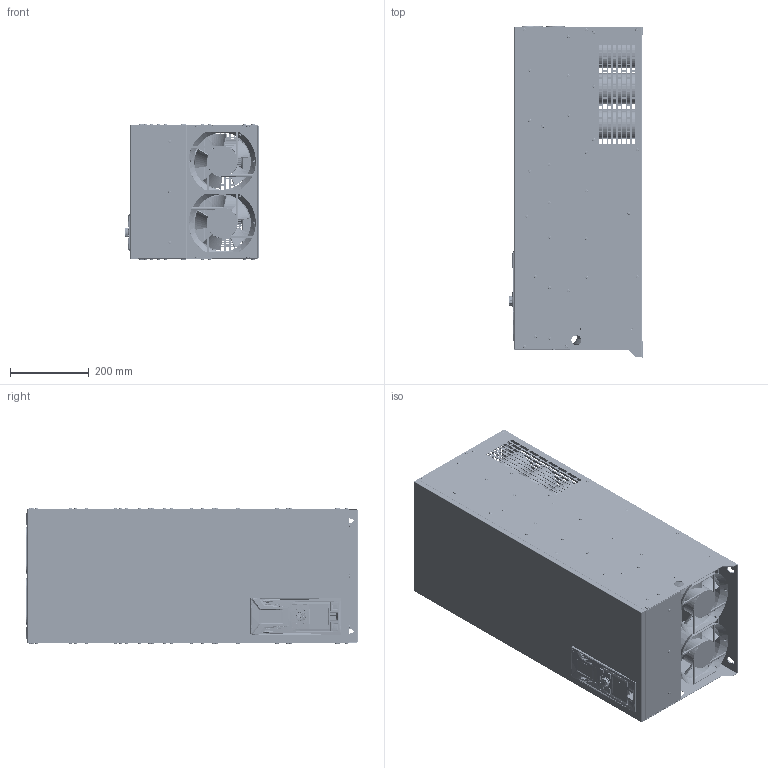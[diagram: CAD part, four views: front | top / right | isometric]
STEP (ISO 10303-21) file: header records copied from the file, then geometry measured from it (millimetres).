
FILE_DESCRIPTION((''),'2;1');
FILE_NAME('700-380-_132__ASM','2026-05-06T16:01:53',('23373'),(''),'CREO PARAMETRIC BY PTC INC, 2021023','CREO PARAMETRIC BY PTC INC, 2021023','');
FILE_SCHEMA(('AUTOMOTIVE_DESIGN { 1 0 10303 214 1 1 1 1 }'));
Products named in the file (157): CA700-132KW-SR-01_20; CA700-132KW-SR_ASM_9_ASM; CA700-132KW-BJ-01-01_28; CA700-132KW-BJ-01-01_ASM_23_ASM; CA700-132KW-BJ-01-02_25; S-M4-ZC_42; S-M6-ZC_42; CA700-132KW-BJ-01-02_ASM_12_ASM; CA700-132KW-BJ-01-03_30; SO-3R5M4-16-ZC_49; SO-3R5M3-26-ZC_49; CA700-132KW-BJ-01-03_ASM_26_ASM; CA700-132KW-BJ-01-04_18; CA700-132KW-BJ-01-04_ASM_6_ASM; CA700-132KW-BJ-01-05_13; CA700-132KW-BJ-01-05_ASM_9_ASM; CA700-132KW-BJ-01-06_13; CA700-132KW-BJ-01-06_ASM_9_ASM; CA700-132KW-BJ-01-07_12; CA700-132KW-BJ-01-07_ASM_7_ASM; CA700-132KW-BJ-01-08_14; CA700-132KW-BJ-01-08_ASM_14_ASM; CA700-132KW-BJ-01-09_14; CA700-132KW-BJ-01-09_ASM_12_ASM; CA700-45KW-BJ-01-07_2; D4X8-GB12618-1990_1; CA700-132KW-BJ-01_ASM_39_ASM; CA700-132KW-BJ-02_19; S-M5-ZC_42; CA700-132KW-BJ-02_ASM_10_ASM; CA700-132KW-BJ-03_21; CA700-132KW-BJ-03_ASM_15_ASM; CA700-132KW-BJ-04_21; SO-3R5M3-6-ZC_49; CA700-132KW-BJ-04_ASM_15_ASM; CA700-132KW-BJ-05_11; CA700-132KW-BJ-05_ASM_9_ASM; CA700-132KW-BJ-06_4; CA700-132KW-BJ-06_ASM_5_ASM; CA700-132KW-BJ-07-01_19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
Assembly tree (404 placements, depth 9):
  700-380-_132__ASM
    0CA700-132KW_ASM_49_ASM
      CA700-132KW-SR_ASM_9_ASM
        CA700-132KW-SR-01_20
      CA700-132KW-BJ_ASM_38_ASM
        CA700-132KW-BJ-01_ASM_39_ASM
          CA700-132KW-BJ-01-01_ASM_23_ASM
            CA700-132KW-BJ-01-01_28
          CA700-132KW-BJ-01-02_ASM_12_ASM
            CA700-132KW-BJ-01-02_25
            S-M4-ZC_42  x2
            S-M6-ZC_42  x4
          CA700-132KW-BJ-01-03_ASM_26_ASM
            CA700-132KW-BJ-01-03_30
            S-M4-ZC_42  x21
            SO-3R5M4-16-ZC_49  x10
            S-M6-ZC_42  x2
            SO-3R5M3-26-ZC_49  x4
          CA700-132KW-BJ-01-04_ASM_6_ASM  x2
            CA700-132KW-BJ-01-04_18
            S-M4-ZC_42
          CA700-132KW-BJ-01-05_ASM_9_ASM
            CA700-132KW-BJ-01-05_13
            S-M4-ZC_42  x3
          CA700-132KW-BJ-01-06_ASM_9_ASM
            CA700-132KW-BJ-01-06_13
            S-M4-ZC_42  x3
          CA700-132KW-BJ-01-07_ASM_7_ASM
            CA700-132KW-BJ-01-07_12
          CA700-132KW-BJ-01-08_ASM_14_ASM
            CA700-132KW-BJ-01-08_14
            S-M4-ZC_42  x3
          CA700-132KW-BJ-01-09_ASM_12_ASM
            CA700-132KW-BJ-01-09_14
            S-M4-ZC_42  x3
          CA700-45KW-BJ-01-07_2  x5
          D4X8-GB12618-1990_1  x68
        CA700-132KW-BJ-02_ASM_10_ASM
          CA700-132KW-BJ-02_19
          S-M5-ZC_42  x8
          S-M6-ZC_42  x2
        CA700-132KW-BJ-03_ASM_15_ASM
          CA700-132KW-BJ-03_21
          S-M5-ZC_42  x12
          S-M6-ZC_42  x2
          S-M4-ZC_42
        CA700-132KW-BJ-04_ASM_15_ASM
          CA700-132KW-BJ-04_21
          S-M4-ZC_42
          SO-3R5M3-6-ZC_49  x3
        CA700-132KW-BJ-05_ASM_9_ASM
          CA700-132KW-BJ-05_11
          S-M4-ZC_42  x8
        CA700-132KW-BJ-06_ASM_5_ASM
          CA700-132KW-BJ-06_4
          S-M6-ZC_42  x2
        CA700-132KW-BJ-07_ASM_5_ASM
          CA700-132KW-BJ-07-01_ASM_12_ASM
            CA700-132KW-BJ-07-01_19
            TPS-4-8-ZC_103  x2
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Bounding box: 337.73 x 840 x 343.4 mm (x, y, z)
Volume: 14239429.6 mm3; surface area: 9704861.7 mm2
Topology: 355 solids, 382 shells, 42254 faces, 115406 edges, 75621 vertices
Faces by surface type: plane 34182, cylinder 5661, cone 1077, bspline 758, extrusion 242, torus 158, revolution 138, sphere 38
Entity records: 733397 total; most frequent: CARTESIAN_POINT 153334, ORIENTED_EDGE 97713, DIRECTION 88348, EDGE_CURVE 48899, VECTOR 37958, LINE 37716, VERTEX_POINT 31787, AXIS2_PLACEMENT_3D 25193
